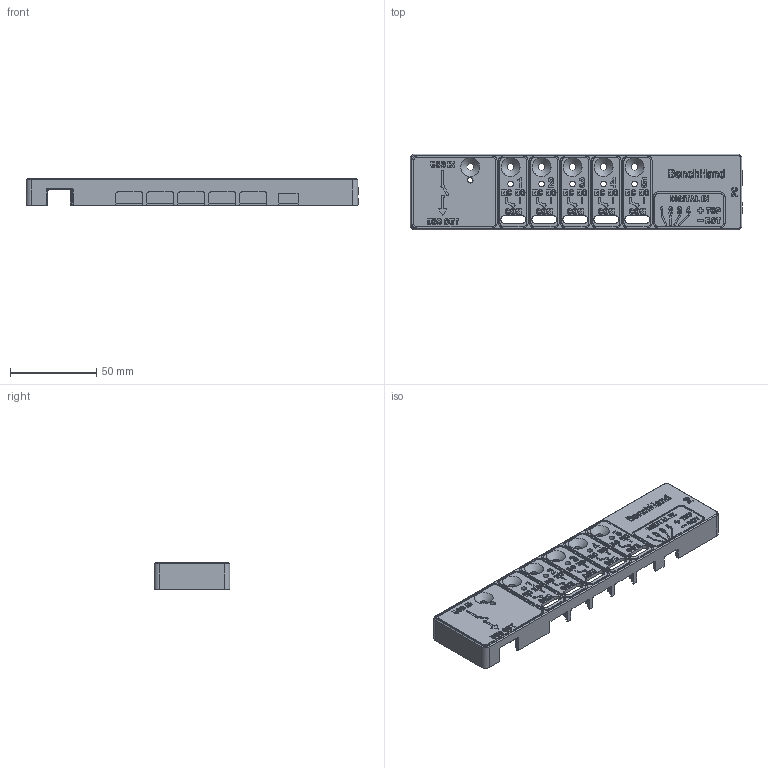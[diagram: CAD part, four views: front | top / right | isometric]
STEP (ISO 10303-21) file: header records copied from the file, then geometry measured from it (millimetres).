
FILE_DESCRIPTION(('Open CASCADE Model'),'2;1');
FILE_NAME('Open CASCADE Shape Model','2026-11-14T14:57:00',('Author'),( 'Open CASCADE'),'Open CASCADE STEP processor 7.9','Open CASCADE 7.9' ,'Unknown');
FILE_SCHEMA(('AUTOMOTIVE_DESIGN { 1 0 10303 214 1 1 1 1 }'));
Products named in the file (1): Open CASCADE STEP translator 7.9 3
Bounding box: 192.8 x 44 x 15.2 mm (x, y, z)
Volume: 26383.7 mm3; surface area: 31636.8 mm2
Topology: 1 solids, 1 shells, 2297 faces, 6412 edges, 4268 vertices
Faces by surface type: bspline 2297
Entity records: 181453 total; most frequent: CARTESIAN_POINT 99827, B_SPLINE_CURVE_WITH_KNOTS 17026, ORIENTED_EDGE 12824, PCURVE 12824, DEFINITIONAL_REPRESENTATION 12824, EDGE_CURVE 6412, SURFACE_CURVE 6384, VERTEX_POINT 4274
